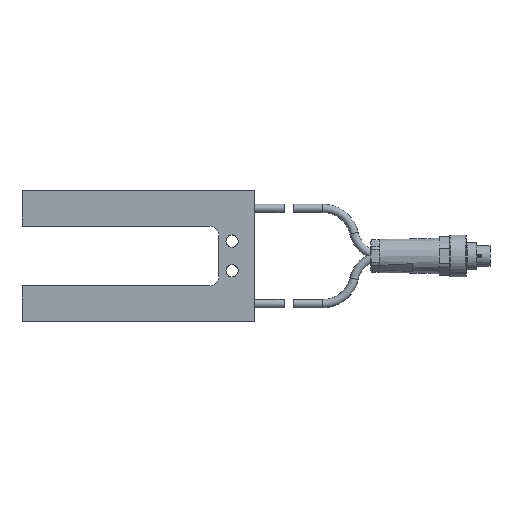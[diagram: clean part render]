
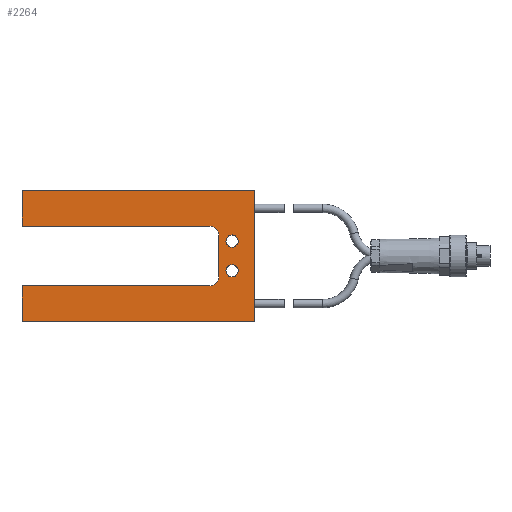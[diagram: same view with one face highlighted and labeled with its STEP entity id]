
A CAD part, top view. The second image highlights one B-rep face of the part: STEP entity #2264.
In plain terms, the highlighted planar face has unit normal (0, 0, 1).
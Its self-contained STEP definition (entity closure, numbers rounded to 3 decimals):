
#105=LINE($,#4000,#191);
#109=LINE($,#4012,#195);
#110=LINE($,#4016,#196);
#114=LINE($,#4024,#200);
#117=LINE($,#4030,#203);
#120=LINE($,#4035,#206);
#122=LINE($,#4039,#208);
#125=LINE($,#4044,#211);
#191=VECTOR($,#3213,14.);
#195=VECTOR($,#3225,63.);
#196=VECTOR($,#3228,78.);
#200=VECTOR($,#3234,44.);
#203=VECTOR($,#3239,63.);
#206=VECTOR($,#3244,12.);
#208=VECTOR($,#3248,12.);
#211=VECTOR($,#3253,78.);
#303=PLANE($,#2572);
#409=FACE_BOUND($,#797,.T.);
#410=FACE_BOUND($,#798,.T.);
#411=FACE_BOUND($,#799,.T.);
#797=EDGE_LOOP($,(#1881));
#798=EDGE_LOOP($,(#1882));
#799=EDGE_LOOP($,(#1883,#1884,#1885,#1886,#1887,#1888,#1889,#1890,#1891,
#1892));
#935=CIRCLE($,#2552,2.05);
#937=CIRCLE($,#2555,2.05);
#940=CIRCLE($,#2559,3.);
#942=CIRCLE($,#2563,3.);
#1111=VERTEX_POINT($,#3977);
#1113=VERTEX_POINT($,#3982);
#1117=VERTEX_POINT($,#3990);
#1118=VERTEX_POINT($,#3992);
#1120=VERTEX_POINT($,#3998);
#1122=VERTEX_POINT($,#4004);
#1124=VERTEX_POINT($,#4010);
#1125=VERTEX_POINT($,#4014);
#1126=VERTEX_POINT($,#4015);
#1129=VERTEX_POINT($,#4023);
#1131=VERTEX_POINT($,#4029);
#1133=VERTEX_POINT($,#4038);
#1351=EDGE_CURVE($,#1111,#1111,#935,.T.);
#1353=EDGE_CURVE($,#1113,#1113,#937,.T.);
#1357=EDGE_CURVE($,#1117,#1118,#940,.T.);
#1361=EDGE_CURVE($,#1120,#1117,#105,.T.);
#1364=EDGE_CURVE($,#1122,#1120,#942,.T.);
#1367=EDGE_CURVE($,#1124,#1122,#109,.T.);
#1368=EDGE_CURVE($,#1125,#1126,#110,.T.);
#1372=EDGE_CURVE($,#1126,#1129,#114,.T.);
#1375=EDGE_CURVE($,#1118,#1131,#117,.T.);
#1378=EDGE_CURVE($,#1131,#1125,#120,.T.);
#1380=EDGE_CURVE($,#1133,#1124,#122,.T.);
#1383=EDGE_CURVE($,#1129,#1133,#125,.T.);
#1881=ORIENTED_EDGE($,*,*,#1353,.T.);
#1882=ORIENTED_EDGE($,*,*,#1351,.T.);
#1883=ORIENTED_EDGE($,*,*,#1380,.F.);
#1884=ORIENTED_EDGE($,*,*,#1383,.F.);
#1885=ORIENTED_EDGE($,*,*,#1372,.F.);
#1886=ORIENTED_EDGE($,*,*,#1368,.F.);
#1887=ORIENTED_EDGE($,*,*,#1378,.F.);
#1888=ORIENTED_EDGE($,*,*,#1375,.F.);
#1889=ORIENTED_EDGE($,*,*,#1357,.F.);
#1890=ORIENTED_EDGE($,*,*,#1361,.F.);
#1891=ORIENTED_EDGE($,*,*,#1364,.F.);
#1892=ORIENTED_EDGE($,*,*,#1367,.F.);
#2264=ADVANCED_FACE($,(#409,#410,#411),#303,.T.);
#2552=AXIS2_PLACEMENT_3D($,#3978,#3191,#3192);
#2555=AXIS2_PLACEMENT_3D($,#3983,#3197,#3198);
#2559=AXIS2_PLACEMENT_3D($,#3993,#3206,#3207);
#2563=AXIS2_PLACEMENT_3D($,#4006,#3219,#3220);
#2572=AXIS2_PLACEMENT_3D($,#4047,#3257,#3258);
#3191=DIRECTION('center_axis',(0.,0.,-1.));
#3192=DIRECTION('ref_axis',(1.,0.,0.));
#3197=DIRECTION('center_axis',(0.,0.,-1.));
#3198=DIRECTION('ref_axis',(1.,0.,0.));
#3206=DIRECTION('center_axis',(0.,0.,1.));
#3207=DIRECTION('ref_axis',(0.707,0.707,0.));
#3213=DIRECTION($,(0.,1.,0.));
#3219=DIRECTION('center_axis',(0.,0.,1.));
#3220=DIRECTION('ref_axis',(0.707,-0.707,0.));
#3225=DIRECTION($,(1.,0.,0.));
#3228=DIRECTION($,(1.,0.,0.));
#3234=DIRECTION($,(0.,-1.,0.));
#3239=DIRECTION($,(-1.,0.,0.));
#3244=DIRECTION($,(0.,1.,0.));
#3248=DIRECTION($,(0.,1.,0.));
#3253=DIRECTION($,(-1.,0.,0.));
#3257=DIRECTION('center_axis',(0.,0.,1.));
#3258=DIRECTION('ref_axis',(1.,0.,0.));
#3977=CARTESIAN_POINT('',(33.55,5.,12.));
#3978=CARTESIAN_POINT('Origin',(31.5,5.,12.));
#3982=CARTESIAN_POINT('',(33.55,-5.,12.));
#3983=CARTESIAN_POINT('Origin',(31.5,-5.,12.));
#3990=CARTESIAN_POINT('',(27.,7.,12.));
#3992=CARTESIAN_POINT('',(24.,10.,12.));
#3993=CARTESIAN_POINT('Origin',(24.,7.,12.));
#3998=CARTESIAN_POINT('',(27.,-7.,12.));
#4000=CARTESIAN_POINT($,(27.,10.,12.));
#4004=CARTESIAN_POINT('',(24.,-10.,12.));
#4006=CARTESIAN_POINT('Origin',(24.,-7.,12.));
#4010=CARTESIAN_POINT('',(-39.,-10.,12.));
#4012=CARTESIAN_POINT($,(27.,-10.,12.));
#4014=CARTESIAN_POINT('',(-39.,22.,12.));
#4015=CARTESIAN_POINT('',(39.,22.,12.));
#4016=CARTESIAN_POINT($,(39.,22.,12.));
#4023=CARTESIAN_POINT('',(39.,-22.,12.));
#4024=CARTESIAN_POINT($,(39.,-22.,12.));
#4029=CARTESIAN_POINT('',(-39.,10.,12.));
#4030=CARTESIAN_POINT($,(-39.,10.,12.));
#4035=CARTESIAN_POINT($,(-39.,22.,12.));
#4038=CARTESIAN_POINT('',(-39.,-22.,12.));
#4039=CARTESIAN_POINT($,(-39.,-10.,12.));
#4044=CARTESIAN_POINT($,(-39.,-22.,12.));
#4047=CARTESIAN_POINT('Origin',(-36.,-16.,12.));
